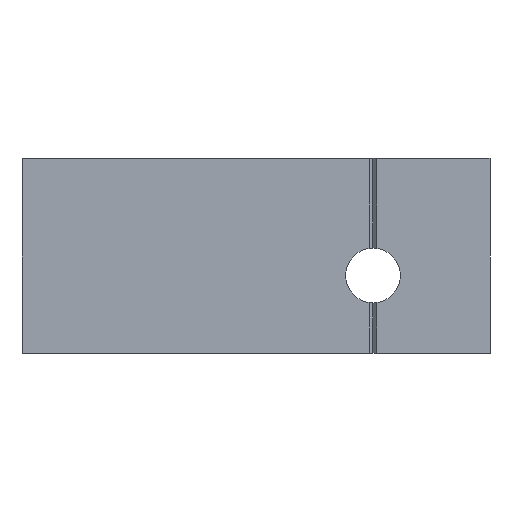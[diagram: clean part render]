
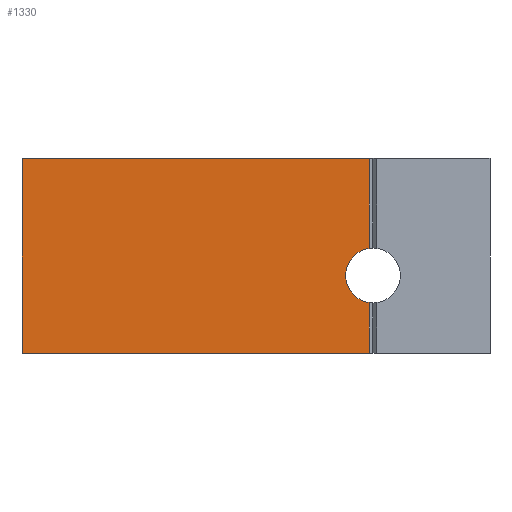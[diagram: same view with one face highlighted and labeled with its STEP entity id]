
A CAD part, front view. The second image highlights one B-rep face of the part: STEP entity #1330.
In plain terms, the highlighted planar face has unit normal (0, -1, 0).
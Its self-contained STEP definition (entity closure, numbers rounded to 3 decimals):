
#24 = DIRECTION ( 'NONE',  ( 0., 0., 1. ) ) ;
#59 = ORIENTED_EDGE ( 'NONE', *, *, #153, .T. ) ;
#94 = VECTOR ( 'NONE', #613, 1000. ) ;
#109 = VERTEX_POINT ( 'NONE', #2027 ) ;
#128 = LINE ( 'NONE', #1898, #1741 ) ;
#153 = EDGE_CURVE ( 'NONE', #250, #1854, #1863, .T. ) ;
#166 = EDGE_CURVE ( 'NONE', #513, #250, #1700, .T. ) ;
#201 = EDGE_CURVE ( 'NONE', #724, #513, #128, .T. ) ;
#225 = FACE_OUTER_BOUND ( 'NONE', #1296, .T. ) ;
#238 = EDGE_CURVE ( 'NONE', #109, #1818, #1806, .T. ) ;
#250 = VERTEX_POINT ( 'NONE', #485 ) ;
#302 = ORIENTED_EDGE ( 'NONE', *, *, #166, .T. ) ;
#432 = DIRECTION ( 'NONE',  ( 1., 0., 0. ) ) ;
#437 = LINE ( 'NONE', #1739, #94 ) ;
#485 = CARTESIAN_POINT ( 'NONE',  ( -30., -30., -50. ) ) ;
#510 = CARTESIAN_POINT ( 'NONE',  ( 14.5, -30., 0. ) ) ;
#513 = VERTEX_POINT ( 'NONE', #603 ) ;
#603 = CARTESIAN_POINT ( 'NONE',  ( -30., -30., -25. ) ) ;
#613 = DIRECTION ( 'NONE',  ( 0., 0., 1. ) ) ;
#656 = LINE ( 'NONE', #510, #1416 ) ;
#722 = VECTOR ( 'NONE', #1094, 1000. ) ;
#724 = VERTEX_POINT ( 'NONE', #1107 ) ;
#878 = AXIS2_PLACEMENT_3D ( 'NONE', #1916, #1767, #1602 ) ;
#900 = CARTESIAN_POINT ( 'NONE',  ( -30., -30., 0. ) ) ;
#918 = CARTESIAN_POINT ( 'NONE',  ( 14.5, -30., -43.464 ) ) ;
#974 = ORIENTED_EDGE ( 'NONE', *, *, #201, .T. ) ;
#1094 = DIRECTION ( 'NONE',  ( 0., 0., -1. ) ) ;
#1107 = CARTESIAN_POINT ( 'NONE',  ( 14.5, -30., -25. ) ) ;
#1146 = ORIENTED_EDGE ( 'NONE', *, *, #1489, .T. ) ;
#1296 = EDGE_LOOP ( 'NONE', ( #1386, #1146, #974, #302, #59, #1436 ) ) ;
#1330 = ADVANCED_FACE ( 'NONE', ( #225 ), #1522, .T. ) ;
#1386 = ORIENTED_EDGE ( 'NONE', *, *, #238, .F. ) ;
#1416 = VECTOR ( 'NONE', #24, 1000. ) ;
#1436 = ORIENTED_EDGE ( 'NONE', *, *, #2043, .T. ) ;
#1489 = EDGE_CURVE ( 'NONE', #109, #724, #437, .T. ) ;
#1522 = PLANE ( 'NONE',  #1713 ) ;
#1527 = CARTESIAN_POINT ( 'NONE',  ( 30., -30., 0. ) ) ;
#1602 = DIRECTION ( 'NONE',  ( 0., 0., -1. ) ) ;
#1637 = VECTOR ( 'NONE', #432, 1000. ) ;
#1668 = CARTESIAN_POINT ( 'NONE',  ( 14.5, -30., -50. ) ) ;
#1700 = LINE ( 'NONE', #900, #722 ) ;
#1713 = AXIS2_PLACEMENT_3D ( 'NONE', #1527, #1867, #1997 ) ;
#1739 = CARTESIAN_POINT ( 'NONE',  ( 14.5, -30., 0. ) ) ;
#1741 = VECTOR ( 'NONE', #1744, 1000. ) ;
#1744 = DIRECTION ( 'NONE',  ( -1., 0., 0. ) ) ;
#1767 = DIRECTION ( 'NONE',  ( 0., -1., 0. ) ) ;
#1806 = CIRCLE ( 'NONE', #878, 3.5 ) ;
#1818 = VERTEX_POINT ( 'NONE', #918 ) ;
#1854 = VERTEX_POINT ( 'NONE', #1668 ) ;
#1863 = LINE ( 'NONE', #2062, #1637 ) ;
#1867 = DIRECTION ( 'NONE',  ( 0., -1., 0. ) ) ;
#1898 = CARTESIAN_POINT ( 'NONE',  ( 30., -30., -25. ) ) ;
#1916 = CARTESIAN_POINT ( 'NONE',  ( 15., -30., -40. ) ) ;
#1997 = DIRECTION ( 'NONE',  ( 0., 0., -1. ) ) ;
#2027 = CARTESIAN_POINT ( 'NONE',  ( 14.5, -30., -36.536 ) ) ;
#2043 = EDGE_CURVE ( 'NONE', #1854, #1818, #656, .T. ) ;
#2062 = CARTESIAN_POINT ( 'NONE',  ( 0., -30., -50. ) ) ;
